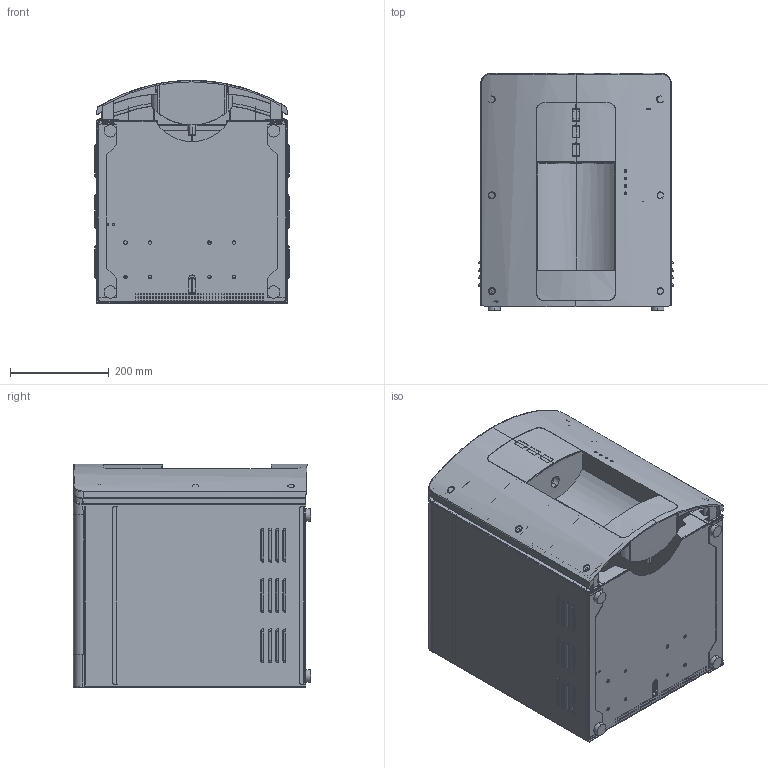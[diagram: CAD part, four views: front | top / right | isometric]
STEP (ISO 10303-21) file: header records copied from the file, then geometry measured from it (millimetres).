
FILE_DESCRIPTION((''),'2;1');
FILE_NAME('WL850MINI20130715_ASM_ASM','2017-05-23T',('bill'),(''),'PRO/ENGINEER BY PARAMETRIC TECHNOLOGY CORPORATION, 2014000','PRO/ENGINEER BY PARAMETRIC TECHNOLOGY CORPORATION, 2014000','');
FILE_SCHEMA(('CONFIG_CONTROL_DESIGN'));
Length unit declared in the file: millimetre
Products named in the file (203): DOWN_BASE_MINI_0629_1; WL850_DOWN_BASE_20120330_ASM_5_ASM; SIDE_PANEL_LEFT1_MINI_0629_2; GRAVITY_FOOT_DEFAULT_1; WL850_SIDE_PANEL_LEFT_20120330__ASM; SIDE_PANEL_RIGHT1_MINI_0629_2; WL850_SIDE_PANEL_RIGHT_20120330_ASM; WL_850_UPPER_BASE_MINI_21; WL850_UPPER_BASE_20120330_ASM_6_ASM; WL_850_BACK_PANEL-MINI_1; WL850_BACK_PANEL_MINI_20120330__ASM; MANIFOLD_SOLID_BREP_313483; MANIFOLD_SOLID_BREP_313571; MANIFOLD_SOLID_BREP_313659; MANIFOLD_SOLID_BREP_313747; MANIFOLD_SOLID_BREP_313835; MANIFOLD_SOLID_BREP_313923; MANIFOLD_SOLID_BREP_314011; MANIFOLD_SOLID_BREP_314099; MANIFOLD_SOLID_BREP_314187; MANIFOLD_SOLID_BREP_314275; MANIFOLD_SOLID_BREP_314363; MANIFOLD_SOLID_BREP_314451; MANIFOLD_SOLID_BREP_314539; MANIFOLD_SOLID_BREP_314627; MANIFOLD_SOLID_BREP_314715; MANIFOLD_SOLID_BREP_314803; MANIFOLD_SOLID_BREP_314891; MANIFOLD_SOLID_BREP_314979; MANIFOLD_SOLID_BREP_315067; MANIFOLD_SOLID_BREP_315155; MANIFOLD_SOLID_BREP_315243; MANIFOLD_SOLID_BREP_315331; MANIFOLD_SOLID_BREP_315419; MANIFOLD_SOLID_BREP_315507; MANIFOLD_SOLID_BREP_315595; MANIFOLD_SOLID_BREP_315683; MANIFOLD_SOLID_BREP_315771; MANIFOLD_SOLID_BREP_315859; MANIFOLD_SOLID_BREP_315947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
Assembly tree (205 placements, depth 5):
  WL850MINI20130715_ASM_ASM
    WL850MINI20130715_ASM_18_ASM
      WL850_DOWN_BASE_20120330_ASM_5_ASM
        DOWN_BASE_MINI_0629_1
      WL850_SIDE_PANEL_LEFT_20120330__ASM
        SIDE_PANEL_LEFT1_MINI_0629_2
        GRAVITY_FOOT_DEFAULT_1  x2
      WL850_SIDE_PANEL_RIGHT_20120330_ASM
        SIDE_PANEL_RIGHT1_MINI_0629_2
        GRAVITY_FOOT_DEFAULT_1  x2
      WL850_UPPER_BASE_20120330_ASM_6_ASM
        WL_850_UPPER_BASE_MINI_21
      WL850_BACK_PANEL_MINI_20120330__ASM
        WL_850_BACK_PANEL-MINI_1
      CO_9031_CONDENSOR_MINI_1_ASM
        MANIFOLD_SOLID_BREP_313483
        MANIFOLD_SOLID_BREP_313571
        MANIFOLD_SOLID_BREP_313659
        MANIFOLD_SOLID_BREP_313747
        MANIFOLD_SOLID_BREP_313835
        MANIFOLD_SOLID_BREP_313923
        MANIFOLD_SOLID_BREP_314011
        MANIFOLD_SOLID_BREP_314099
        MANIFOLD_SOLID_BREP_314187
        MANIFOLD_SOLID_BREP_314275
        MANIFOLD_SOLID_BREP_314363
        MANIFOLD_SOLID_BREP_314451
        MANIFOLD_SOLID_BREP_314539
        MANIFOLD_SOLID_BREP_314627
        MANIFOLD_SOLID_BREP_314715
        MANIFOLD_SOLID_BREP_314803
        MANIFOLD_SOLID_BREP_314891
        MANIFOLD_SOLID_BREP_314979
        MANIFOLD_SOLID_BREP_315067
        MANIFOLD_SOLID_BREP_315155
        MANIFOLD_SOLID_BREP_315243
        MANIFOLD_SOLID_BREP_315331
        MANIFOLD_SOLID_BREP_315419
        MANIFOLD_SOLID_BREP_315507
        MANIFOLD_SOLID_BREP_315595
        MANIFOLD_SOLID_BREP_315683
        MANIFOLD_SOLID_BREP_315771
        MANIFOLD_SOLID_BREP_315859
        MANIFOLD_SOLID_BREP_315947
        MANIFOLD_SOLID_BREP_316035
        MANIFOLD_SOLID_BREP_316123
        MANIFOLD_SOLID_BREP_316211
        MANIFOLD_SOLID_BREP_316299
        MANIFOLD_SOLID_BREP_316387
        MANIFOLD_SOLID_BREP_316475
        MANIFOLD_SOLID_BREP_316563
        MANIFOLD_SOLID_BREP_316651
        MANIFOLD_SOLID_BREP_316739
        MANIFOLD_SOLID_BREP_316827
        MANIFOLD_SOLID_BREP_316915
        MANIFOLD_SOLID_BREP_317003
        MANIFOLD_SOLID_BREP_317091
        MANIFOLD_SOLID_BREP_317179
        MANIFOLD_SOLID_BREP_317267
        MANIFOLD_SOLID_BREP_317355
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Bounding box: 393 x 480 x 451.61 mm (x, y, z)
Volume: 2654026.2 mm3; surface area: 3220385.7 mm2
Topology: 194 solids, 194 shells, 3731 faces, 9365 edges, 5949 vertices
Faces by surface type: plane 1691, cylinder 1337, bspline 268, cone 224, torus 111, sphere 96, extrusion 4
Entity records: 134849 total; most frequent: CARTESIAN_POINT 42945, DIRECTION 18612, ORIENTED_EDGE 18454, EDGE_CURVE 9227, AXIS2_PLACEMENT_3D 7092, VERTEX_POINT 5925, VECTOR 4428, LINE 4424
